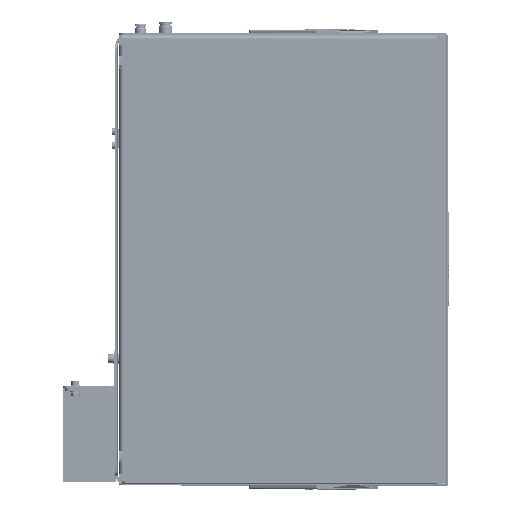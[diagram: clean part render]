
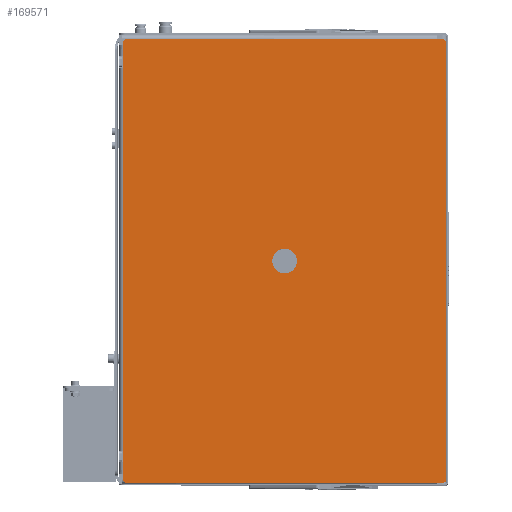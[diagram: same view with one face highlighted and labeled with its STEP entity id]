
A CAD part, top view. The second image highlights one B-rep face of the part: STEP entity #169571.
In plain terms, the highlighted planar face has unit normal (0, 0, 1).
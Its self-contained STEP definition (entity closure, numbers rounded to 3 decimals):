
#10908=CIRCLE('',#181219,3.);
#10909=CIRCLE('',#181220,3.);
#10910=CIRCLE('',#181221,3.);
#10911=CIRCLE('',#181222,3.);
#10912=CIRCLE('',#181223,12.5);
#10913=CIRCLE('',#181224,12.5);
#17745=FACE_BOUND('',#33111,.T.);
#23199=FACE_OUTER_BOUND('',#33110,.T.);
#33110=EDGE_LOOP('',(#129192,#129193,#129194,#129195,#129196,#129197,#129198,
#129199));
#33111=EDGE_LOOP('',(#129200,#129201));
#45196=LINE('',#283292,#57445);
#45197=LINE('',#283296,#57446);
#45198=LINE('',#283300,#57447);
#45199=LINE('',#283303,#57448);
#57445=VECTOR('',#211130,10.);
#57446=VECTOR('',#211133,10.);
#57447=VECTOR('',#211136,10.);
#57448=VECTOR('',#211139,10.);
#71474=VERTEX_POINT('',#283288);
#71475=VERTEX_POINT('',#283289);
#71476=VERTEX_POINT('',#283291);
#71477=VERTEX_POINT('',#283293);
#71478=VERTEX_POINT('',#283295);
#71479=VERTEX_POINT('',#283297);
#71480=VERTEX_POINT('',#283299);
#71481=VERTEX_POINT('',#283301);
#71482=VERTEX_POINT('',#283304);
#71483=VERTEX_POINT('',#283305);
#91911=EDGE_CURVE('',#71474,#71475,#10908,.T.);
#91912=EDGE_CURVE('',#71476,#71474,#45196,.T.);
#91913=EDGE_CURVE('',#71477,#71476,#10909,.T.);
#91914=EDGE_CURVE('',#71478,#71477,#45197,.T.);
#91915=EDGE_CURVE('',#71479,#71478,#10910,.T.);
#91916=EDGE_CURVE('',#71480,#71479,#45198,.T.);
#91917=EDGE_CURVE('',#71481,#71480,#10911,.T.);
#91918=EDGE_CURVE('',#71475,#71481,#45199,.T.);
#91919=EDGE_CURVE('',#71482,#71483,#10912,.T.);
#91920=EDGE_CURVE('',#71483,#71482,#10913,.T.);
#129192=ORIENTED_EDGE('',*,*,#91911,.F.);
#129193=ORIENTED_EDGE('',*,*,#91912,.F.);
#129194=ORIENTED_EDGE('',*,*,#91913,.F.);
#129195=ORIENTED_EDGE('',*,*,#91914,.F.);
#129196=ORIENTED_EDGE('',*,*,#91915,.F.);
#129197=ORIENTED_EDGE('',*,*,#91916,.F.);
#129198=ORIENTED_EDGE('',*,*,#91917,.F.);
#129199=ORIENTED_EDGE('',*,*,#91918,.F.);
#129200=ORIENTED_EDGE('',*,*,#91919,.T.);
#129201=ORIENTED_EDGE('',*,*,#91920,.T.);
#154302=PLANE('',#181218);
#169571=ADVANCED_FACE('',(#23199,#17745),#154302,.T.);
#181218=AXIS2_PLACEMENT_3D('',#283287,#211126,#211127);
#181219=AXIS2_PLACEMENT_3D('',#283290,#211128,#211129);
#181220=AXIS2_PLACEMENT_3D('',#283294,#211131,#211132);
#181221=AXIS2_PLACEMENT_3D('',#283298,#211134,#211135);
#181222=AXIS2_PLACEMENT_3D('',#283302,#211137,#211138);
#181223=AXIS2_PLACEMENT_3D('',#283306,#211140,#211141);
#181224=AXIS2_PLACEMENT_3D('',#283307,#211142,#211143);
#211126=DIRECTION('center_axis',(0.,0.,
1.));
#211127=DIRECTION('ref_axis',(1.,0.,0.));
#211128=DIRECTION('center_axis',(0.,0.,
-1.));
#211129=DIRECTION('ref_axis',(-0.707,0.707,0.));
#211130=DIRECTION('',(0.,1.,0.));
#211131=DIRECTION('center_axis',(0.,0.,
-1.));
#211132=DIRECTION('ref_axis',(-0.707,-0.707,0.));
#211133=DIRECTION('',(-1.,0.,0.));
#211134=DIRECTION('center_axis',(0.,0.,
-1.));
#211135=DIRECTION('ref_axis',(0.707,-0.707,0.));
#211136=DIRECTION('',(0.,-1.,0.));
#211137=DIRECTION('center_axis',(0.,0.,
-1.));
#211138=DIRECTION('ref_axis',(0.707,0.707,0.));
#211139=DIRECTION('',(1.,0.,0.));
#211140=DIRECTION('center_axis',(0.,0.,
-1.));
#211141=DIRECTION('ref_axis',(1.,0.,0.));
#211142=DIRECTION('center_axis',(0.,0.,
-1.));
#211143=DIRECTION('ref_axis',(1.,0.,0.));
#283287=CARTESIAN_POINT('Origin',(323.076,265.353,261.301));
#283288=CARTESIAN_POINT('',(159.326,487.103,261.301));
#283289=CARTESIAN_POINT('',(162.326,490.103,261.301));
#283290=CARTESIAN_POINT('Origin',(162.326,487.103,261.301));
#283291=CARTESIAN_POINT('',(159.326,43.603,261.301));
#283292=CARTESIAN_POINT('',(159.326,490.103,261.301));
#283293=CARTESIAN_POINT('',(162.326,40.603,261.301));
#283294=CARTESIAN_POINT('Origin',(162.326,43.603,261.301));
#283295=CARTESIAN_POINT('',(483.826,40.603,261.301));
#283296=CARTESIAN_POINT('',(159.326,40.603,261.301));
#283297=CARTESIAN_POINT('',(486.826,43.603,261.301));
#283298=CARTESIAN_POINT('Origin',(483.826,43.603,261.301));
#283299=CARTESIAN_POINT('',(486.826,487.103,261.301));
#283300=CARTESIAN_POINT('',(486.826,40.603,261.301));
#283301=CARTESIAN_POINT('',(483.826,490.103,261.301));
#283302=CARTESIAN_POINT('Origin',(483.826,487.103,261.301));
#283303=CARTESIAN_POINT('',(486.826,490.103,261.301));
#283304=CARTESIAN_POINT('',(335.576,265.353,261.301));
#283305=CARTESIAN_POINT('',(310.576,265.353,261.301));
#283306=CARTESIAN_POINT('Origin',(323.076,265.353,261.301));
#283307=CARTESIAN_POINT('Origin',(323.076,265.353,261.301));
